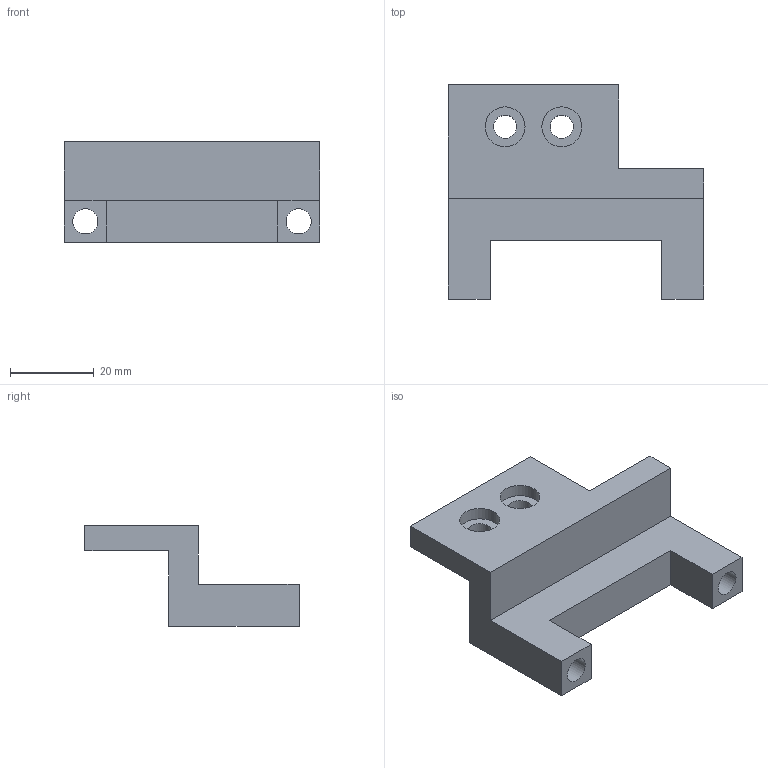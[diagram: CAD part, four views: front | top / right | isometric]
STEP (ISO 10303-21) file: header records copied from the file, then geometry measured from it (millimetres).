
FILE_DESCRIPTION(/* description */ (''),/* implementation_level */ '2;1');
FILE_NAME(/* name */ 'C:/Users/David Florian/Desktop/Cyber-Scooter-Step-Files/13-Brake-Caliper-Mount.step',/* time_stamp */ '2020-12-14T22:22:52-06:00',/* author */ (''),/* organization */ (''),/* preprocessor_version */ 'ST-DEVELOPER v18.1',/* originating_system */ 'Autodesk Translation Framework v9.7.1.1290',/* authorisation */ '');
FILE_SCHEMA (('AUTOMOTIVE_DESIGN { 1 0 10303 214 3 1 1 }'));
Length unit declared in the file: millimetre
Products named in the file (1): Brake-Caliper-Side-Mount
Bounding box: 60.8 x 51 x 24 mm (x, y, z)
Volume: 21637.5 mm3; surface area: 9746.2 mm2
Topology: 1 solids, 1 shells, 23 faces, 57 edges, 38 vertices
Faces by surface type: plane 17, cylinder 6
Full cylindrical faces by diameter (mm): 5.5 x2, 6 x2, 9.5 x2
Entity records: 732 total; most frequent: CARTESIAN_POINT 119, DIRECTION 117, ORIENTED_EDGE 114, EDGE_CURVE 57, LINE 45, VECTOR 45, VERTEX_POINT 38, AXIS2_PLACEMENT_3D 36
